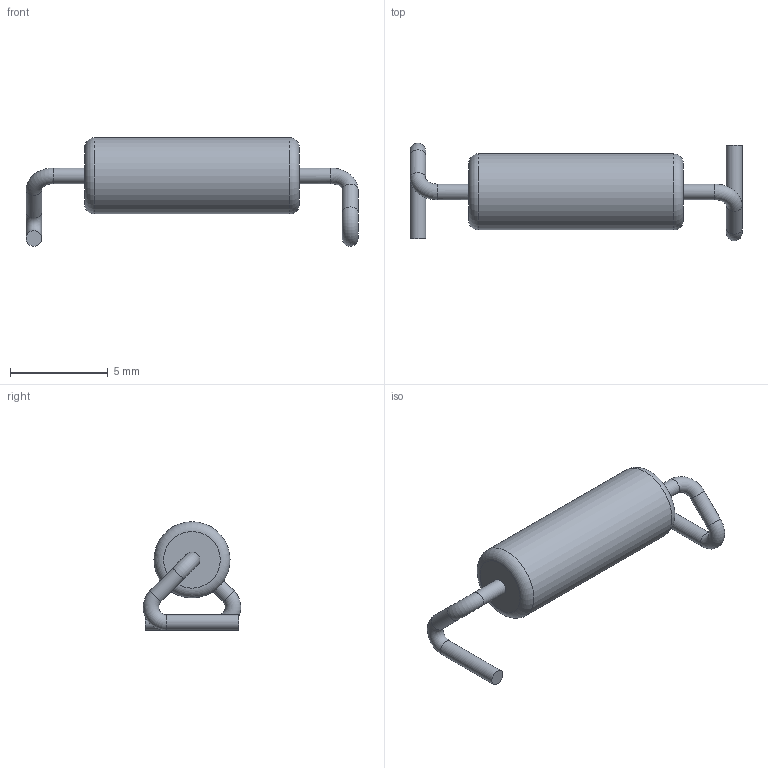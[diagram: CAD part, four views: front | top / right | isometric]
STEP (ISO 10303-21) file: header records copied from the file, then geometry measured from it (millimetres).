
FILE_DESCRIPTION((''),'2;1');
FILE_NAME('P:\Work\User\Special\CAD\Widerstand Serien\AC-Serie\gebogene Ausführung\AC03_WSZ6720\AC0300090XXXXJBM00.stp','2015-10-26T07:38:28',('klepschi'),(''),'Autodesk Inventor 2013','Autodesk Inventor 2013','');
FILE_SCHEMA(('AUTOMOTIVE_DESIGN { 1 0 10303 214 1 1 1 1 }'));
Length unit declared in the file: millimetre
Products named in the file (1): AC0300090XXXXJBM00
Bounding box: 17 x 5 x 5.55 mm (x, y, z)
Volume: 140.6 mm3; surface area: 205.3 mm2
Topology: 1 solids, 1 shells, 17 faces, 34 edges, 21 vertices
Faces by surface type: cylinder 7, torus 6, plane 4
Full cylindrical faces by diameter (mm): 0.8 x6, 3.9 x1
Entity records: 372 total; most frequent: DIRECTION 68, CARTESIAN_POINT 50, AXIS2_PLACEMENT_3D 34, ORIENTED_EDGE 32, EDGE_LOOP 32, FACE_OUTER_BOUND 17, ADVANCED_FACE 17, VERTEX_POINT 16
